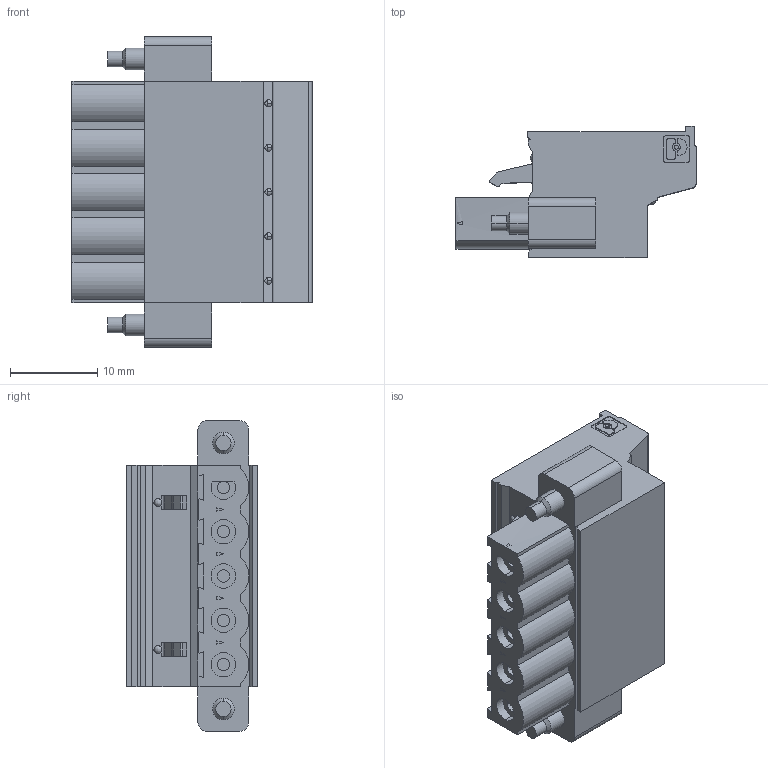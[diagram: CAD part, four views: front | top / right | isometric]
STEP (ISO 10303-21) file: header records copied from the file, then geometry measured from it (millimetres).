
FILE_DESCRIPTION (( 'STEP AP203' ), '1' );
FILE_NAME ('SRZP-01.STEP', '2020-01-23T08:01:30', ( '' ), ( '' ), 'SwSTEP 2.0', 'SolidWorks 2018', '' );
FILE_SCHEMA (( 'CONFIG_CONTROL_DESIGN' ));
Length unit declared in the file: millimetre
Products named in the file (1): SRZP-01
Bounding box: 27.5 x 15 x 35.56 mm (x, y, z)
Volume: 6928.6 mm3; surface area: 4005.2 mm2
Topology: 1 solids, 1 shells, 365 faces, 896 edges, 584 vertices
Faces by surface type: plane 230, cylinder 108, bspline 18, cone 9
Entity records: 11330 total; most frequent: CARTESIAN_POINT 2531, DIRECTION 1813, ORIENTED_EDGE 1792, EDGE_CURVE 896, AXIS2_PLACEMENT_3D 620, VERTEX_POINT 584, LINE 573, VECTOR 573
